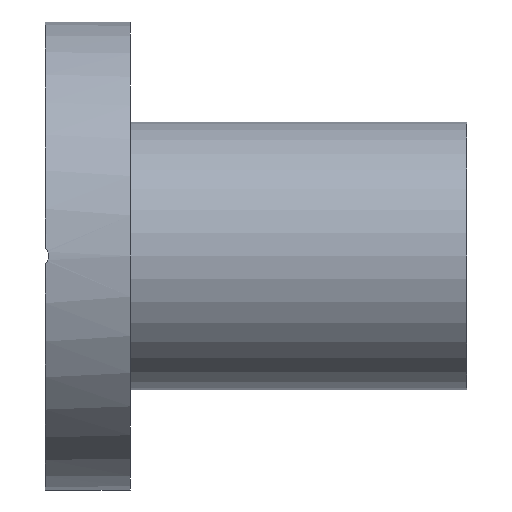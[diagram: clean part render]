
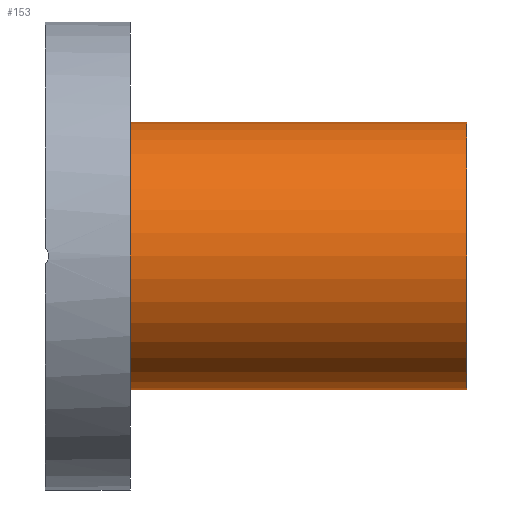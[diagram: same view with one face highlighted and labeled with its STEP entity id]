
A CAD part, front view. The second image highlights one B-rep face of the part: STEP entity #153.
In plain terms, the highlighted cylindrical face has radius 20 mm (diameter 40 mm), a full revolution.
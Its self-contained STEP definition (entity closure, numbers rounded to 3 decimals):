
#153 = ADVANCED_FACE( '', ( #294, #295 ), #296, .T. );
#294 = FACE_OUTER_BOUND( '', #434, .T. );
#295 = FACE_OUTER_BOUND( '', #435, .T. );
#296 = CYLINDRICAL_SURFACE( '', #436, 20. );
#434 = EDGE_LOOP( '', ( #575 ) );
#435 = EDGE_LOOP( '', ( #576 ) );
#436 = AXIS2_PLACEMENT_3D( '', #577, #578, #579 );
#575 = ORIENTED_EDGE( '', *, *, #688, .F. );
#576 = ORIENTED_EDGE( '', *, *, #686, .T. );
#577 = CARTESIAN_POINT( '', ( 58.2, 0., 0. ) );
#578 = DIRECTION( '', ( -1., 0., 0. ) );
#579 = DIRECTION( '', ( 0., 0., 1. ) );
#686 = EDGE_CURVE( '', #768, #768, #769, .T. );
#688 = EDGE_CURVE( '', #771, #771, #772, .T. );
#768 = VERTEX_POINT( '', #901 );
#769 = CIRCLE( '', #902, 20. );
#771 = VERTEX_POINT( '', #904 );
#772 = CIRCLE( '', #905, 20. );
#901 = CARTESIAN_POINT( '', ( 58.2, 20., 0. ) );
#902 = AXIS2_PLACEMENT_3D( '', #1004, #1005, #1006 );
#904 = CARTESIAN_POINT( '', ( 0., 20., 0. ) );
#905 = AXIS2_PLACEMENT_3D( '', #1007, #1008, #1009 );
#1004 = CARTESIAN_POINT( '', ( 58.2, 0., 0. ) );
#1005 = DIRECTION( '', ( -1., 0., 0. ) );
#1006 = DIRECTION( '', ( 0., 1., 0. ) );
#1007 = CARTESIAN_POINT( '', ( 0., 0., 0. ) );
#1008 = DIRECTION( '', ( -1., 0., 0. ) );
#1009 = DIRECTION( '', ( 0., 1., 0. ) );
